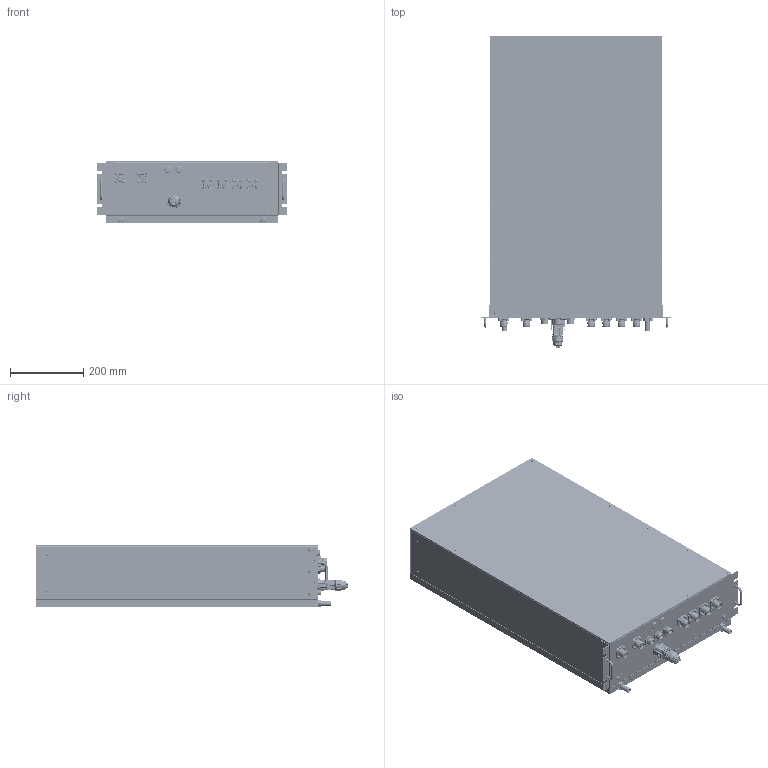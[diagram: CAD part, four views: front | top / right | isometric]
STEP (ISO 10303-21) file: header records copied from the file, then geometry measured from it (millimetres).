
FILE_DESCRIPTION (( 'STEP AP214' ), '1' );
FILE_NAME ('SP110HS-V3-YT_20231130.STEP', '2023-11-30T10:51:08', ( '' ), ( '' ), 'SwSTEP 2.0', 'SolidWorks 2018', '' );
FILE_SCHEMA (( 'AUTOMOTIVE_DESIGN' ));
Length unit declared in the file: millimetre
Products named in the file (109): M4X12坋趼麥芛蹟隊_GB819; 16郋滅鳥裔郪璃; M4x10坋趼羞郪磁蹟隊; SP100HS_00103; 16郋盄傷; SP100HC-005_境嫉; 16PIN陓瘍傷赽_ASM; RJ45-001; M4X8坋趼麥芛蹟隊_GB819; 910075100_200A插座正极_单独防水_Busbar; 阨郲2-00; 910075300_200A插座负极_单独防水 Busbar; SP110HS-V3-YT_20231130; m6x14_gb9074_13_asm; 000-諉華睫瘍; SP100HS-002_奻裔; 粟菜-M5_GB93 1987; SP100HS_00201; LS511-B55; 蹟譫-M5ㄗ粟す菜ㄘ; SP100HS-020_阨濮鍼; 200A插头+插座_负极_标准版00; PBS-23偌聽羲壽PBS-23; 蹟譫-M5_GB6170; PBS-23偌聽羲壽PBS-23_PBS-23; 16郋啣傷; す菜-M5_GB95 1985; 200A插头+插座_正极_标准版00; SP100HS-001_狟褲爾諉
Assembly tree (71 placements, depth 4):
  M4X12坋趼麥芛蹟隊_GB819
  M4x10坋趼羞郪磁蹟隊
  SP100HS_00103
  16郋盄傷
  M4x10坋趼羞郪磁蹟隊
Bounding box: 520 x 852.8 x 170 mm (x, y, z)
Volume: 9428798 mm3; surface area: 2607042.3 mm2
Topology: 212 solids, 224 shells, 21807 faces, 55176 edges, 34229 vertices
Faces by surface type: plane 10065, bspline 5929, cylinder 5019, cone 770, torus 24
Entity records: 680491 total; most frequent: CARTESIAN_POINT 218007, ORIENTED_EDGE 82046, DIRECTION 67199, EDGE_CURVE 41025, VERTEX_POINT 25716, LINE 25657, VECTOR 25657, AXIS2_PLACEMENT_3D 20771
